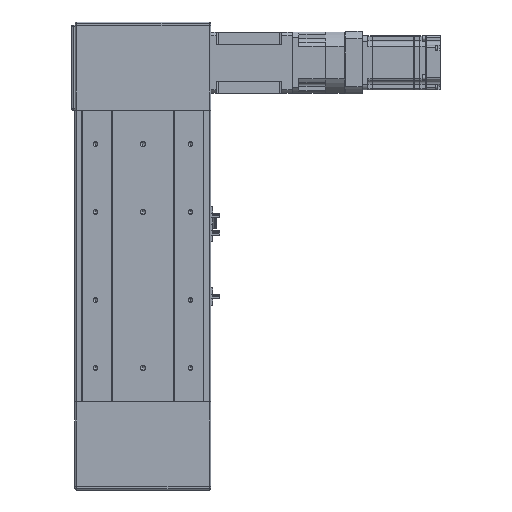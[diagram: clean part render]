
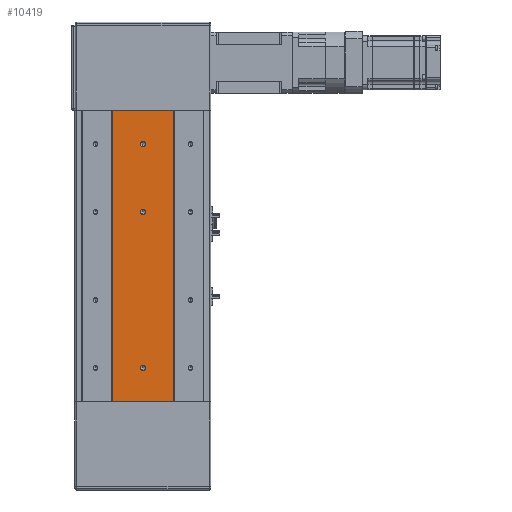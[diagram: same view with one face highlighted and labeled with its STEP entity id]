
A CAD part, front view. The second image highlights one B-rep face of the part: STEP entity #10419.
In plain terms, the highlighted planar face has unit normal (0, -1, 0).
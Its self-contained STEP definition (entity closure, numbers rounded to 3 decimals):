
#8368 = CARTESIAN_POINT ( 'NONE',  ( -0.031, -67., -165. ) ) ;
#8382 = DIRECTION ( 'NONE',  ( 0., 0., 1. ) ) ;
#8395 = DIRECTION ( 'NONE',  ( 0., 1., 0. ) ) ;
#8440 = DIRECTION ( 'NONE',  ( 0., 1., 0. ) ) ;
#8475 = CARTESIAN_POINT ( 'NONE',  ( -0.031, -67., 65. ) ) ;
#8496 = DIRECTION ( 'NONE',  ( 0., 0., 1. ) ) ;
#8586 = DIRECTION ( 'NONE',  ( 0., 1., 0. ) ) ;
#8600 = DIRECTION ( 'NONE',  ( 0., 0., 1. ) ) ;
#8642 = CARTESIAN_POINT ( 'NONE',  ( -0.031, -67., 165. ) ) ;
#8798 = CARTESIAN_POINT ( 'NONE',  ( 44.969, -67., -215. ) ) ;
#10419 = ADVANCED_FACE ( 'NONE', ( #24968, #24918, #24914, #24911 ), #45485, .F. ) ;
#12443 = VECTOR ( 'NONE', #73654, 1000. ) ;
#12488 = LINE ( 'NONE', #73662, #12443 ) ;
#12538 = VECTOR ( 'NONE', #73689, 1000. ) ;
#12552 = LINE ( 'NONE', #73692, #12538 ) ;
#12578 = VECTOR ( 'NONE', #73805, 1000. ) ;
#12582 = CIRCLE ( 'NONE', #13008, 4. ) ;
#12600 = LINE ( 'NONE', #73830, #12578 ) ;
#12625 = CIRCLE ( 'NONE', #13037, 4. ) ;
#12661 = CIRCLE ( 'NONE', #13041, 4. ) ;
#12664 = LINE ( 'NONE', #73887, #12676 ) ;
#12676 = VECTOR ( 'NONE', #73900, 1000. ) ;
#13008 = AXIS2_PLACEMENT_3D ( 'NONE', #73858, #73849, #73837 ) ;
#13037 = AXIS2_PLACEMENT_3D ( 'NONE', #73824, #73808, #73797 ) ;
#13041 = AXIS2_PLACEMENT_3D ( 'NONE', #73912, #73904, #73885 ) ;
#13469 = AXIS2_PLACEMENT_3D ( 'NONE', #45488, #45490, #45390 ) ;
#13655 = CIRCLE ( 'NONE', #27514, 4. ) ;
#13810 = CIRCLE ( 'NONE', #27508, 4. ) ;
#13892 = CIRCLE ( 'NONE', #27556, 4. ) ;
#17153 = VERTEX_POINT ( 'NONE', #80849 ) ;
#17193 = VERTEX_POINT ( 'NONE', #81022 ) ;
#17224 = VERTEX_POINT ( 'NONE', #80959 ) ;
#17228 = VERTEX_POINT ( 'NONE', #80998 ) ;
#17942 = VERTEX_POINT ( 'NONE', #79681 ) ;
#17962 = VERTEX_POINT ( 'NONE', #79613 ) ;
#21887 = EDGE_CURVE ( 'NONE', #37185, #37299, #12488, .T. ) ;
#21906 = EDGE_CURVE ( 'NONE', #37189, #37193, #12552, .T. ) ;
#21950 = EDGE_CURVE ( 'NONE', #17153, #17193, #12625, .T. ) ;
#21960 = EDGE_CURVE ( 'NONE', #37189, #37185, #12600, .T. ) ;
#21972 = EDGE_CURVE ( 'NONE', #17962, #17228, #12582, .T. ) ;
#21987 = EDGE_CURVE ( 'NONE', #37193, #37299, #12664, .T. ) ;
#21995 = EDGE_CURVE ( 'NONE', #17224, #17942, #12661, .T. ) ;
#24911 = FACE_OUTER_BOUND ( 'NONE', #65962, .T. ) ;
#24914 = FACE_BOUND ( 'NONE', #65808, .T. ) ;
#24918 = FACE_BOUND ( 'NONE', #65926, .T. ) ;
#24968 = FACE_BOUND ( 'NONE', #65951, .T. ) ;
#27508 = AXIS2_PLACEMENT_3D ( 'NONE', #8475, #8440, #8496 ) ;
#27514 = AXIS2_PLACEMENT_3D ( 'NONE', #8368, #8395, #8382 ) ;
#27556 = AXIS2_PLACEMENT_3D ( 'NONE', #8642, #8586, #8600 ) ;
#29822 = ORIENTED_EDGE ( 'NONE', *, *, #21960, .T. ) ;
#29832 = ORIENTED_EDGE ( 'NONE', *, *, #21950, .T. ) ;
#29836 = ORIENTED_EDGE ( 'NONE', *, *, #39935, .T. ) ;
#29838 = ORIENTED_EDGE ( 'NONE', *, *, #21887, .T. ) ;
#29878 = ORIENTED_EDGE ( 'NONE', *, *, #39867, .T. ) ;
#29906 = ORIENTED_EDGE ( 'NONE', *, *, #21995, .T. ) ;
#29924 = ORIENTED_EDGE ( 'NONE', *, *, #21972, .T. ) ;
#29926 = ORIENTED_EDGE ( 'NONE', *, *, #21987, .F. ) ;
#29938 = ORIENTED_EDGE ( 'NONE', *, *, #21906, .F. ) ;
#29986 = ORIENTED_EDGE ( 'NONE', *, *, #39964, .T. ) ;
#37185 = VERTEX_POINT ( 'NONE', #91199 ) ;
#37189 = VERTEX_POINT ( 'NONE', #91211 ) ;
#37193 = VERTEX_POINT ( 'NONE', #91176 ) ;
#37299 = VERTEX_POINT ( 'NONE', #8798 ) ;
#39867 = EDGE_CURVE ( 'NONE', #17193, #17153, #13655, .T. ) ;
#39935 = EDGE_CURVE ( 'NONE', #17942, #17224, #13810, .T. ) ;
#39964 = EDGE_CURVE ( 'NONE', #17228, #17962, #13892, .T. ) ;
#45390 = DIRECTION ( 'NONE',  ( 0., 0., 1. ) ) ;
#45485 = PLANE ( 'NONE',  #13469 ) ;
#45488 = CARTESIAN_POINT ( 'NONE',  ( 0., -67., 215. ) ) ;
#45490 = DIRECTION ( 'NONE',  ( 0., 1., 0. ) ) ;
#65808 = EDGE_LOOP ( 'NONE', ( #29878, #29832 ) ) ;
#65926 = EDGE_LOOP ( 'NONE', ( #29836, #29906 ) ) ;
#65951 = EDGE_LOOP ( 'NONE', ( #29986, #29924 ) ) ;
#65962 = EDGE_LOOP ( 'NONE', ( #29838, #29926, #29938, #29822 ) ) ;
#73654 = DIRECTION ( 'NONE',  ( 1., 0., 0. ) ) ;
#73662 = CARTESIAN_POINT ( 'NONE',  ( 0., -67., -215. ) ) ;
#73689 = DIRECTION ( 'NONE',  ( 1., 0., 0. ) ) ;
#73692 = CARTESIAN_POINT ( 'NONE',  ( 0., -67., 215. ) ) ;
#73797 = DIRECTION ( 'NONE',  ( 0., 0., 1. ) ) ;
#73805 = DIRECTION ( 'NONE',  ( 0., 0., -1. ) ) ;
#73808 = DIRECTION ( 'NONE',  ( 0., 1., 0. ) ) ;
#73824 = CARTESIAN_POINT ( 'NONE',  ( -0.031, -67., -165. ) ) ;
#73830 = CARTESIAN_POINT ( 'NONE',  ( -45.031, -67., 215. ) ) ;
#73837 = DIRECTION ( 'NONE',  ( 0., 0., 1. ) ) ;
#73849 = DIRECTION ( 'NONE',  ( 0., 1., 0. ) ) ;
#73858 = CARTESIAN_POINT ( 'NONE',  ( -0.031, -67., 165. ) ) ;
#73885 = DIRECTION ( 'NONE',  ( 0., 0., 1. ) ) ;
#73887 = CARTESIAN_POINT ( 'NONE',  ( 44.969, -67., 215. ) ) ;
#73900 = DIRECTION ( 'NONE',  ( 0., 0., -1. ) ) ;
#73904 = DIRECTION ( 'NONE',  ( 0., 1., 0. ) ) ;
#73912 = CARTESIAN_POINT ( 'NONE',  ( -0.031, -67., 65. ) ) ;
#79613 = CARTESIAN_POINT ( 'NONE',  ( -0.031, -67., 169. ) ) ;
#79681 = CARTESIAN_POINT ( 'NONE',  ( -0.031, -67., 61. ) ) ;
#80849 = CARTESIAN_POINT ( 'NONE',  ( -0.031, -67., -161. ) ) ;
#80959 = CARTESIAN_POINT ( 'NONE',  ( -0.031, -67., 69. ) ) ;
#80998 = CARTESIAN_POINT ( 'NONE',  ( -0.031, -67., 161. ) ) ;
#81022 = CARTESIAN_POINT ( 'NONE',  ( -0.031, -67., -169. ) ) ;
#91176 = CARTESIAN_POINT ( 'NONE',  ( 44.969, -67., 215. ) ) ;
#91199 = CARTESIAN_POINT ( 'NONE',  ( -45.031, -67., -215. ) ) ;
#91211 = CARTESIAN_POINT ( 'NONE',  ( -45.031, -67., 215. ) ) ;
